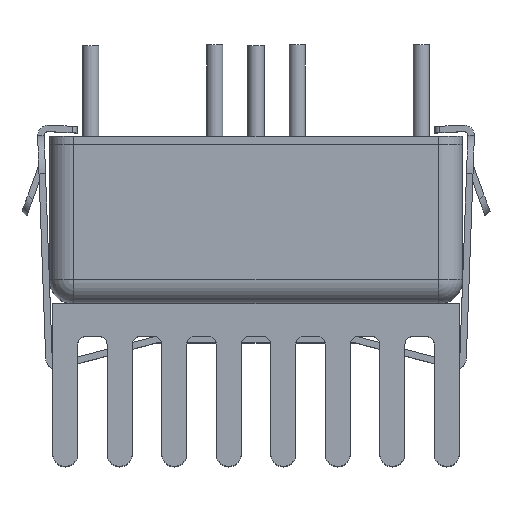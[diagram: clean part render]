
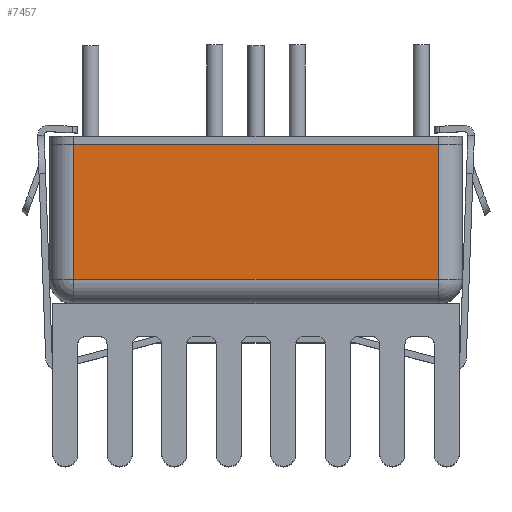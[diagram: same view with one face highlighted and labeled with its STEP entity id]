
A CAD part, top view. The second image highlights one B-rep face of the part: STEP entity #7457.
In plain terms, the highlighted planar face has unit normal (0, 0, 1).
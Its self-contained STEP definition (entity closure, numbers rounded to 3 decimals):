
#805 = VECTOR ( 'NONE', #2381, 1000. ) ;
#807 = VERTEX_POINT ( 'NONE', #9376 ) ;
#1563 = ORIENTED_EDGE ( 'NONE', *, *, #14016, .T. ) ;
#2062 = ORIENTED_EDGE ( 'NONE', *, *, #18983, .T. ) ;
#2223 = DIRECTION ( 'NONE',  ( 1., 0., 0. ) ) ;
#2381 = DIRECTION ( 'NONE',  ( 0., 1., 0. ) ) ;
#2603 = DIRECTION ( 'NONE',  ( 1., 0., 0. ) ) ;
#3268 = CARTESIAN_POINT ( 'NONE',  ( -11.2, -8.3, 12.7 ) ) ;
#3884 = EDGE_CURVE ( 'NONE', #17393, #807, #18857, .T. ) ;
#5767 = LINE ( 'NONE', #11931, #805 ) ;
#6539 = ORIENTED_EDGE ( 'NONE', *, *, #3884, .F. ) ;
#7457 = ADVANCED_FACE ( 'NONE', ( #11756 ), #18314, .T. ) ;
#7579 = LINE ( 'NONE', #8982, #9481 ) ;
#8585 = CARTESIAN_POINT ( 'NONE',  ( -11.2, -9.8, 12.7 ) ) ;
#8982 = CARTESIAN_POINT ( 'NONE',  ( -12.816, -0.001, 12.7 ) ) ;
#9376 = CARTESIAN_POINT ( 'NONE',  ( -11.2, -0.001, 12.7 ) ) ;
#9481 = VECTOR ( 'NONE', #2603, 1000. ) ;
#10546 = AXIS2_PLACEMENT_3D ( 'NONE', #8585, #15152, #2223 ) ;
#10808 = DIRECTION ( 'NONE',  ( 0., 1., 0. ) ) ;
#10996 = LINE ( 'NONE', #12389, #17030 ) ;
#11274 = CARTESIAN_POINT ( 'NONE',  ( 11.2, -8.3, 12.7 ) ) ;
#11756 = FACE_OUTER_BOUND ( 'NONE', #17987, .T. ) ;
#11931 = CARTESIAN_POINT ( 'NONE',  ( 11.2, -9.8, 12.7 ) ) ;
#12389 = CARTESIAN_POINT ( 'NONE',  ( 11.2, -8.3, 12.7 ) ) ;
#14016 = EDGE_CURVE ( 'NONE', #19582, #18800, #5767, .T. ) ;
#15152 = DIRECTION ( 'NONE',  ( 0., 0., 1. ) ) ;
#16279 = EDGE_CURVE ( 'NONE', #807, #18800, #7579, .T. ) ;
#16840 = CARTESIAN_POINT ( 'NONE',  ( 11.2, -0.001, 12.7 ) ) ;
#16884 = VECTOR ( 'NONE', #10808, 1000. ) ;
#17030 = VECTOR ( 'NONE', #20430, 1000. ) ;
#17393 = VERTEX_POINT ( 'NONE', #3268 ) ;
#17987 = EDGE_LOOP ( 'NONE', ( #19322, #6539, #2062, #1563 ) ) ;
#18314 = PLANE ( 'NONE',  #10546 ) ;
#18800 = VERTEX_POINT ( 'NONE', #16840 ) ;
#18857 = LINE ( 'NONE', #18950, #16884 ) ;
#18950 = CARTESIAN_POINT ( 'NONE',  ( -11.2, -9.8, 12.7 ) ) ;
#18983 = EDGE_CURVE ( 'NONE', #17393, #19582, #10996, .T. ) ;
#19322 = ORIENTED_EDGE ( 'NONE', *, *, #16279, .F. ) ;
#19582 = VERTEX_POINT ( 'NONE', #11274 ) ;
#20430 = DIRECTION ( 'NONE',  ( 1., 0., 0. ) ) ;
